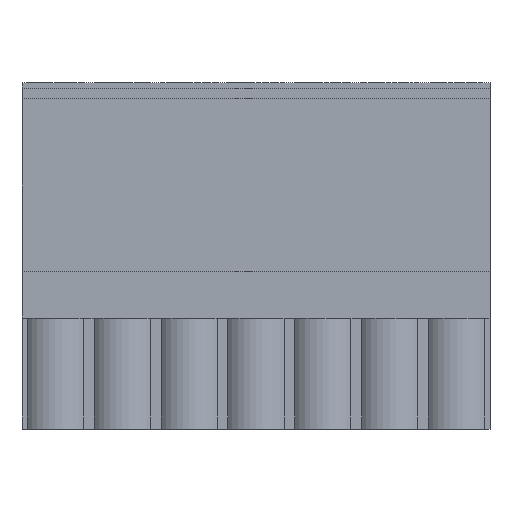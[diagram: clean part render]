
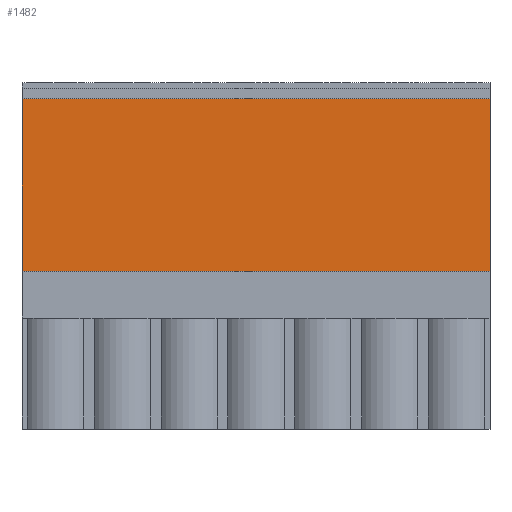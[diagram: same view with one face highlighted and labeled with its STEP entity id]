
A CAD part, top view. The second image highlights one B-rep face of the part: STEP entity #1482.
In plain terms, the highlighted planar face has unit normal (0, 0, 1).
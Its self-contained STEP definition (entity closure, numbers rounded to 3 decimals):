
#1456 = EDGE_CURVE ( 'NONE', #1457, #1458, #6842, .T. ) ;
#1457 = VERTEX_POINT ( 'NONE', #6826 ) ;
#1458 = VERTEX_POINT ( 'NONE', #6825 ) ;
#1482 = ADVANCED_FACE ( 'NONE', ( #6721 ), #6720, .F. ) ;
#1483 = EDGE_LOOP ( 'NONE', ( #1484, #1488, #1490, #1491 ) ) ;
#1484 = ORIENTED_EDGE ( 'NONE', *, *, #1485, .F. ) ;
#1485 = EDGE_CURVE ( 'NONE', #1486, #1487, #6773, .T. ) ;
#1486 = VERTEX_POINT ( 'NONE', #6768 ) ;
#1487 = VERTEX_POINT ( 'NONE', #6769 ) ;
#1488 = ORIENTED_EDGE ( 'NONE', *, *, #1489, .F. ) ;
#1489 = EDGE_CURVE ( 'NONE', #1457, #1486, #6853, .T. ) ;
#1490 = ORIENTED_EDGE ( 'NONE', *, *, #1456, .T. ) ;
#1491 = ORIENTED_EDGE ( 'NONE', *, *, #1492, .T. ) ;
#1492 = EDGE_CURVE ( 'NONE', #1458, #1487, #6849, .T. ) ;
#6716 = DIRECTION ( 'NONE',  ( 0., -1., 0. ) ) ;
#6717 = DIRECTION ( 'NONE',  ( 0., 0., -1. ) ) ;
#6718 = CARTESIAN_POINT ( 'NONE',  ( 10., 3.055, 0. ) ) ;
#6719 = AXIS2_PLACEMENT_3D ( 'NONE', #6718, #6717, #6716 ) ;
#6720 = PLANE ( 'NONE',  #6719 ) ;
#6721 = FACE_OUTER_BOUND ( 'NONE', #1483, .T. ) ;
#6768 = CARTESIAN_POINT ( 'NONE',  ( 0., 18.355, 0. ) ) ;
#6769 = CARTESIAN_POINT ( 'NONE',  ( 35., 18.355, 0. ) ) ;
#6770 = DIRECTION ( 'NONE',  ( 1., 0., 0. ) ) ;
#6771 = VECTOR ( 'NONE', #6770, 1000. ) ;
#6772 = CARTESIAN_POINT ( 'NONE',  ( 10., 18.355, 0. ) ) ;
#6773 = LINE ( 'NONE', #6772, #6771 ) ;
#6825 = CARTESIAN_POINT ( 'NONE',  ( 35., 3.055, 0. ) ) ;
#6826 = CARTESIAN_POINT ( 'NONE',  ( 0., 3.055, 0. ) ) ;
#6842 = LINE ( 'NONE', #6845, #6844 ) ;
#6843 = DIRECTION ( 'NONE',  ( 1., 0., 0. ) ) ;
#6844 = VECTOR ( 'NONE', #6843, 1000. ) ;
#6845 = CARTESIAN_POINT ( 'NONE',  ( 11., 3.055, 0. ) ) ;
#6846 = DIRECTION ( 'NONE',  ( 0., 1., 0. ) ) ;
#6847 = VECTOR ( 'NONE', #6846, 1000. ) ;
#6848 = CARTESIAN_POINT ( 'NONE',  ( 35., 3.055, 0. ) ) ;
#6849 = LINE ( 'NONE', #6848, #6847 ) ;
#6850 = DIRECTION ( 'NONE',  ( 0., 1., 0. ) ) ;
#6851 = VECTOR ( 'NONE', #6850, 1000. ) ;
#6852 = CARTESIAN_POINT ( 'NONE',  ( 0., 3.055, 0. ) ) ;
#6853 = LINE ( 'NONE', #6852, #6851 ) ;
